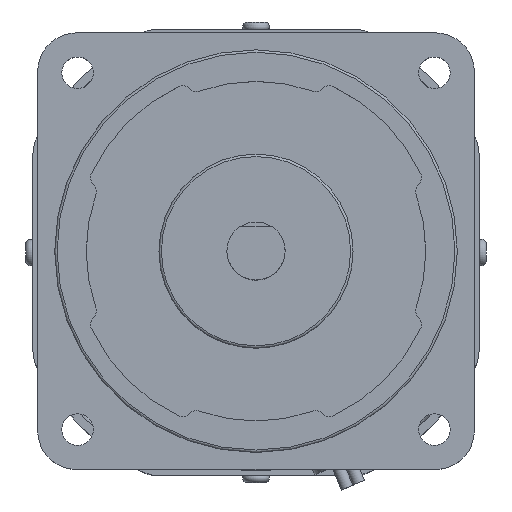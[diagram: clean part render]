
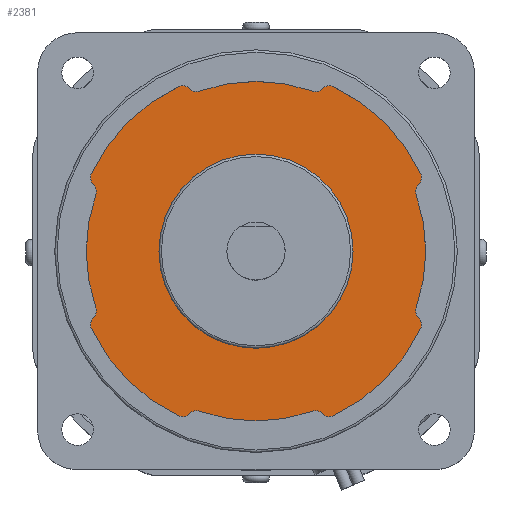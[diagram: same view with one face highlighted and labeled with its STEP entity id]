
A CAD part, top view. The second image highlights one B-rep face of the part: STEP entity #2381.
In plain terms, the highlighted planar face has unit normal (0, 0, 1).
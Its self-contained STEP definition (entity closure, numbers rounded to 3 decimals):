
#1031=CARTESIAN_POINT('',(20.0,0.,197.0));
#1032=VERTEX_POINT('',#1031);
#1033=CARTESIAN_POINT('',(0.,0.,197.0));
#1034=DIRECTION('',(0.0,0.0,-1.0));
#1035=DIRECTION('',(-1.0,0.0,0.0));
#1036=AXIS2_PLACEMENT_3D('',#1033,#1034,#1035);
#1037=CIRCLE('',#1036,20.0);
#1038=EDGE_CURVE('',#1032,#1032,#1037,.T.);
#1061=CARTESIAN_POINT('',(-13.722,-33.501,197.0));
#1062=VERTEX_POINT('',#1061);
#1078=CARTESIAN_POINT('',(-11.626,-33.013,197.0));
#1079=VERTEX_POINT('',#1078);
#1086=CARTESIAN_POINT('',(-12.291,-34.899,197.0));
#1087=DIRECTION('',(0.0,0.0,-1.0));
#1088=DIRECTION('',(-0.408,0.913,0.0));
#1089=AXIS2_PLACEMENT_3D('',#1086,#1087,#1088);
#1090=CIRCLE('',#1089,2.0);
#1091=EDGE_CURVE('',#1079,#1062,#1090,.F.);
#1111=CARTESIAN_POINT('',(11.626,-33.013,197.0));
#1112=VERTEX_POINT('',#1111);
#1119=CARTESIAN_POINT('',(0.,0.,197.0));
#1120=DIRECTION('',(0.,0.,1.0));
#1121=DIRECTION('',(-0.383,-0.924,0.));
#1122=AXIS2_PLACEMENT_3D('',#1119,#1120,#1121);
#1123=CIRCLE('',#1122,35.0);
#1124=EDGE_CURVE('',#1079,#1112,#1123,.T.);
#1134=CARTESIAN_POINT('',(13.722,-33.501,197.0));
#1135=VERTEX_POINT('',#1134);
#1144=CARTESIAN_POINT('',(12.291,-34.899,197.0));
#1145=DIRECTION('',(0.0,0.0,-1.0));
#1146=DIRECTION('',(0.408,0.913,0.0));
#1147=AXIS2_PLACEMENT_3D('',#1144,#1145,#1146);
#1148=CIRCLE('',#1147,2.0);
#1149=EDGE_CURVE('',#1135,#1112,#1148,.F.);
#1176=CARTESIAN_POINT('',(16.006,-33.913,197.0));
#1177=VERTEX_POINT('',#1176);
#1184=CARTESIAN_POINT('',(15.152,-32.104,197.0));
#1185=DIRECTION('',(0.0,0.0,1.0));
#1186=DIRECTION('',(0.715,0.699,0.0));
#1187=AXIS2_PLACEMENT_3D('',#1184,#1185,#1186);
#1188=CIRCLE('',#1187,2.);
#1189=EDGE_CURVE('',#1135,#1177,#1188,.T.);
#1200=CARTESIAN_POINT('',(33.913,-16.006,197.0));
#1201=VERTEX_POINT('',#1200);
#1210=CARTESIAN_POINT('',(0.,0.,197.0));
#1211=DIRECTION('',(0.,0.,1.0));
#1212=DIRECTION('',(0.383,-0.924,0.));
#1213=AXIS2_PLACEMENT_3D('',#1210,#1211,#1212);
#1214=CIRCLE('',#1213,37.5);
#1215=EDGE_CURVE('',#1177,#1201,#1214,.T.);
#1242=CARTESIAN_POINT('',(33.501,-13.722,197.0));
#1243=VERTEX_POINT('',#1242);
#1250=CARTESIAN_POINT('',(32.104,-15.152,197.0));
#1251=DIRECTION('',(0.0,0.0,1.0));
#1252=DIRECTION('',(-0.904,0.427,0.0));
#1253=AXIS2_PLACEMENT_3D('',#1250,#1251,#1252);
#1254=CIRCLE('',#1253,2.);
#1255=EDGE_CURVE('',#1201,#1243,#1254,.T.);
#1276=CARTESIAN_POINT('',(33.013,-11.626,197.0));
#1277=VERTEX_POINT('',#1276);
#1284=CARTESIAN_POINT('',(34.899,-12.291,197.0));
#1285=DIRECTION('',(0.0,0.0,-1.0));
#1286=DIRECTION('',(-0.913,-0.408,0.0));
#1287=AXIS2_PLACEMENT_3D('',#1284,#1285,#1286);
#1288=CIRCLE('',#1287,2.0);
#1289=EDGE_CURVE('',#1277,#1243,#1288,.F.);
#1299=CARTESIAN_POINT('',(33.013,11.626,197.0));
#1300=VERTEX_POINT('',#1299);
#1309=CARTESIAN_POINT('',(0.,0.,197.0));
#1310=DIRECTION('',(0.,0.,1.0));
#1311=DIRECTION('',(0.924,-0.383,0.));
#1312=AXIS2_PLACEMENT_3D('',#1309,#1310,#1311);
#1313=CIRCLE('',#1312,35.);
#1314=EDGE_CURVE('',#1277,#1300,#1313,.T.);
#1332=CARTESIAN_POINT('',(33.501,13.722,197.0));
#1333=VERTEX_POINT('',#1332);
#1342=CARTESIAN_POINT('',(34.899,12.291,197.0));
#1343=DIRECTION('',(0.0,0.0,-1.0));
#1344=DIRECTION('',(-0.913,0.408,0.0));
#1345=AXIS2_PLACEMENT_3D('',#1342,#1343,#1344);
#1346=CIRCLE('',#1345,2.0);
#1347=EDGE_CURVE('',#1333,#1300,#1346,.F.);
#1374=CARTESIAN_POINT('',(33.913,16.006,197.0));
#1375=VERTEX_POINT('',#1374);
#1382=CARTESIAN_POINT('',(32.104,15.152,197.0));
#1383=DIRECTION('',(0.0,0.0,1.0));
#1384=DIRECTION('',(-0.699,0.715,0.0));
#1385=AXIS2_PLACEMENT_3D('',#1382,#1383,#1384);
#1386=CIRCLE('',#1385,2.);
#1387=EDGE_CURVE('',#1333,#1375,#1386,.T.);
#1398=CARTESIAN_POINT('',(16.006,33.913,197.0));
#1399=VERTEX_POINT('',#1398);
#1408=CARTESIAN_POINT('',(0.,0.,197.0));
#1409=DIRECTION('',(0.,0.,1.0));
#1410=DIRECTION('',(0.924,0.383,0.));
#1411=AXIS2_PLACEMENT_3D('',#1408,#1409,#1410);
#1412=CIRCLE('',#1411,37.5);
#1413=EDGE_CURVE('',#1375,#1399,#1412,.T.);
#1440=CARTESIAN_POINT('',(13.722,33.501,197.0));
#1441=VERTEX_POINT('',#1440);
#1448=CARTESIAN_POINT('',(15.152,32.104,197.0));
#1449=DIRECTION('',(0.0,0.0,1.0));
#1450=DIRECTION('',(-0.427,-0.904,0.0));
#1451=AXIS2_PLACEMENT_3D('',#1448,#1449,#1450);
#1452=CIRCLE('',#1451,2.);
#1453=EDGE_CURVE('',#1399,#1441,#1452,.T.);
#1474=CARTESIAN_POINT('',(11.626,33.013,197.0));
#1475=VERTEX_POINT('',#1474);
#1482=CARTESIAN_POINT('',(12.291,34.899,197.0));
#1483=DIRECTION('',(0.0,0.0,-1.0));
#1484=DIRECTION('',(0.408,-0.913,0.0));
#1485=AXIS2_PLACEMENT_3D('',#1482,#1483,#1484);
#1486=CIRCLE('',#1485,2.0);
#1487=EDGE_CURVE('',#1475,#1441,#1486,.F.);
#1497=CARTESIAN_POINT('',(-11.626,33.013,197.0));
#1498=VERTEX_POINT('',#1497);
#1507=CARTESIAN_POINT('',(0.,0.,197.0));
#1508=DIRECTION('',(0.,0.,1.0));
#1509=DIRECTION('',(0.383,0.924,0.));
#1510=AXIS2_PLACEMENT_3D('',#1507,#1508,#1509);
#1511=CIRCLE('',#1510,35.0);
#1512=EDGE_CURVE('',#1475,#1498,#1511,.T.);
#1530=CARTESIAN_POINT('',(-13.722,33.501,197.0));
#1531=VERTEX_POINT('',#1530);
#1540=CARTESIAN_POINT('',(-12.291,34.899,197.0));
#1541=DIRECTION('',(0.0,0.0,-1.0));
#1542=DIRECTION('',(-0.408,-0.913,0.0));
#1543=AXIS2_PLACEMENT_3D('',#1540,#1541,#1542);
#1544=CIRCLE('',#1543,2.0);
#1545=EDGE_CURVE('',#1531,#1498,#1544,.F.);
#1572=CARTESIAN_POINT('',(-16.006,33.913,197.0));
#1573=VERTEX_POINT('',#1572);
#1580=CARTESIAN_POINT('',(-15.152,32.104,197.0));
#1581=DIRECTION('',(0.0,0.0,1.0));
#1582=DIRECTION('',(-0.715,-0.699,0.0));
#1583=AXIS2_PLACEMENT_3D('',#1580,#1581,#1582);
#1584=CIRCLE('',#1583,2.);
#1585=EDGE_CURVE('',#1531,#1573,#1584,.T.);
#1606=CARTESIAN_POINT('',(-33.913,16.006,197.0));
#1607=VERTEX_POINT('',#1606);
#1614=CARTESIAN_POINT('',(0.,0.,197.0));
#1615=DIRECTION('',(0.,0.,1.0));
#1616=DIRECTION('',(-0.383,0.924,0.));
#1617=AXIS2_PLACEMENT_3D('',#1614,#1615,#1616);
#1618=CIRCLE('',#1617,37.5);
#1619=EDGE_CURVE('',#1573,#1607,#1618,.T.);
#1638=CARTESIAN_POINT('',(-33.501,13.722,197.0));
#1639=VERTEX_POINT('',#1638);
#1646=CARTESIAN_POINT('',(-32.104,15.152,197.0));
#1647=DIRECTION('',(0.0,0.0,1.0));
#1648=DIRECTION('',(0.904,-0.427,0.0));
#1649=AXIS2_PLACEMENT_3D('',#1646,#1647,#1648);
#1650=CIRCLE('',#1649,2.);
#1651=EDGE_CURVE('',#1607,#1639,#1650,.T.);
#1672=CARTESIAN_POINT('',(-33.013,11.626,197.0));
#1673=VERTEX_POINT('',#1672);
#1680=CARTESIAN_POINT('',(-34.899,12.291,197.0));
#1681=DIRECTION('',(0.0,0.0,-1.0));
#1682=DIRECTION('',(0.913,0.408,0.0));
#1683=AXIS2_PLACEMENT_3D('',#1680,#1681,#1682);
#1684=CIRCLE('',#1683,2.0);
#1685=EDGE_CURVE('',#1673,#1639,#1684,.F.);
#1695=CARTESIAN_POINT('',(-33.013,-11.626,197.0));
#1696=VERTEX_POINT('',#1695);
#1705=CARTESIAN_POINT('',(0.,0.,197.0));
#1706=DIRECTION('',(0.,0.,1.0));
#1707=DIRECTION('',(-0.924,0.383,0.));
#1708=AXIS2_PLACEMENT_3D('',#1705,#1706,#1707);
#1709=CIRCLE('',#1708,35.0);
#1710=EDGE_CURVE('',#1673,#1696,#1709,.T.);
#1728=CARTESIAN_POINT('',(-33.501,-13.722,197.0));
#1729=VERTEX_POINT('',#1728);
#1738=CARTESIAN_POINT('',(-34.899,-12.291,197.0));
#1739=DIRECTION('',(0.0,0.0,-1.0));
#1740=DIRECTION('',(0.913,-0.408,0.0));
#1741=AXIS2_PLACEMENT_3D('',#1738,#1739,#1740);
#1742=CIRCLE('',#1741,2.0);
#1743=EDGE_CURVE('',#1729,#1696,#1742,.F.);
#1770=CARTESIAN_POINT('',(-33.913,-16.006,197.0));
#1771=VERTEX_POINT('',#1770);
#1778=CARTESIAN_POINT('',(-32.104,-15.152,197.0));
#1779=DIRECTION('',(0.0,0.0,1.0));
#1780=DIRECTION('',(0.699,-0.715,0.0));
#1781=AXIS2_PLACEMENT_3D('',#1778,#1779,#1780);
#1782=CIRCLE('',#1781,2.);
#1783=EDGE_CURVE('',#1729,#1771,#1782,.T.);
#1794=CARTESIAN_POINT('',(-16.006,-33.913,197.0));
#1795=VERTEX_POINT('',#1794);
#1804=CARTESIAN_POINT('',(0.,0.,197.0));
#1805=DIRECTION('',(0.,0.,1.0));
#1806=DIRECTION('',(-0.924,-0.383,0.));
#1807=AXIS2_PLACEMENT_3D('',#1804,#1805,#1806);
#1808=CIRCLE('',#1807,37.5);
#1809=EDGE_CURVE('',#1771,#1795,#1808,.T.);
#1835=CARTESIAN_POINT('',(-15.152,-32.104,197.0));
#1836=DIRECTION('',(0.0,0.0,1.0));
#1837=DIRECTION('',(0.427,0.904,0.0));
#1838=AXIS2_PLACEMENT_3D('',#1835,#1836,#1837);
#1839=CIRCLE('',#1838,2.);
#1840=EDGE_CURVE('',#1795,#1062,#1839,.T.);
#2347=CARTESIAN_POINT('',(0.,0.,197.0));
#2348=DIRECTION('',(0.0,0.0,1.0));
#2349=DIRECTION('',(1.0,0.0,0.0));
#2350=AXIS2_PLACEMENT_3D('',#2347,#2348,#2349);
#2351=PLANE('',#2350);
#2352=ORIENTED_EDGE('',*,*,#1840,.T.);
#2353=ORIENTED_EDGE('',*,*,#1091,.F.);
#2354=ORIENTED_EDGE('',*,*,#1124,.T.);
#2355=ORIENTED_EDGE('',*,*,#1149,.F.);
#2356=ORIENTED_EDGE('',*,*,#1189,.T.);
#2357=ORIENTED_EDGE('',*,*,#1215,.T.);
#2358=ORIENTED_EDGE('',*,*,#1255,.T.);
#2359=ORIENTED_EDGE('',*,*,#1289,.F.);
#2360=ORIENTED_EDGE('',*,*,#1314,.T.);
#2361=ORIENTED_EDGE('',*,*,#1347,.F.);
#2362=ORIENTED_EDGE('',*,*,#1387,.T.);
#2363=ORIENTED_EDGE('',*,*,#1413,.T.);
#2364=ORIENTED_EDGE('',*,*,#1453,.T.);
#2365=ORIENTED_EDGE('',*,*,#1487,.F.);
#2366=ORIENTED_EDGE('',*,*,#1512,.T.);
#2367=ORIENTED_EDGE('',*,*,#1545,.F.);
#2368=ORIENTED_EDGE('',*,*,#1585,.T.);
#2369=ORIENTED_EDGE('',*,*,#1619,.T.);
#2370=ORIENTED_EDGE('',*,*,#1651,.T.);
#2371=ORIENTED_EDGE('',*,*,#1685,.F.);
#2372=ORIENTED_EDGE('',*,*,#1710,.T.);
#2373=ORIENTED_EDGE('',*,*,#1743,.F.);
#2374=ORIENTED_EDGE('',*,*,#1783,.T.);
#2375=ORIENTED_EDGE('',*,*,#1809,.T.);
#2376=EDGE_LOOP('',(#2352,#2353,#2354,#2355,#2356,#2357,#2358,#2359,#2360,#2361,#2362,#2363,#2364,#2365,#2366,#2367,#2368,#2369,#2370,#2371,#2372,#2373,#2374,#2375));
#2377=FACE_OUTER_BOUND('',#2376,.T.);
#2378=ORIENTED_EDGE('',*,*,#1038,.T.);
#2379=EDGE_LOOP('',(#2378));
#2380=FACE_BOUND('',#2379,.T.);
#2381=ADVANCED_FACE('',(#2377,#2380),#2351,.T.);
